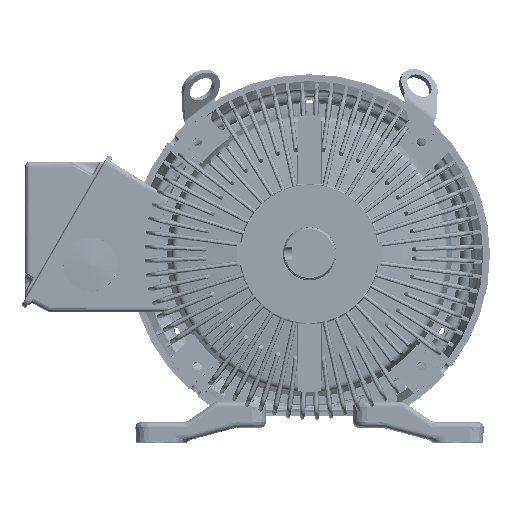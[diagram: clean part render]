
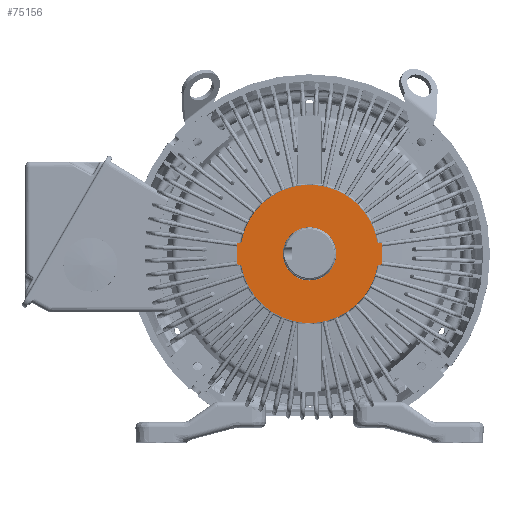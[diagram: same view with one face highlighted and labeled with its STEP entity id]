
A CAD part, top view. The second image highlights one B-rep face of the part: STEP entity #75156.
In plain terms, the highlighted planar face has unit normal (0, 0, 1) as drawn and (0, 0, -1) by its records, which use the part's own axes.
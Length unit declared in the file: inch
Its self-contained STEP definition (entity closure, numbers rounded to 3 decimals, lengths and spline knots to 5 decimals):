
#42311=CARTESIAN_POINT('',(0.,0.,-1.656));
#42312=DIRECTION('',(0.,0.,1.));
#42313=DIRECTION('',(0.,1.,0.));
#42314=AXIS2_PLACEMENT_3D('',#42311,#42312,#42313);
#42316=CARTESIAN_POINT('',(0.,0.,-1.656));
#42317=DIRECTION('',(0.,0.,1.));
#42318=DIRECTION('',(0.,-1.,0.));
#42319=AXIS2_PLACEMENT_3D('',#42316,#42317,#42318);
#42503=CARTESIAN_POINT('',(0.,0.,-1.656));
#42504=DIRECTION('',(0.,0.,-1.));
#42505=DIRECTION('',(-0.987,0.159,0.));
#42506=AXIS2_PLACEMENT_3D('',#42503,#42504,#42505);
#42872=CARTESIAN_POINT('',(0.,0.,-1.656));
#42873=DIRECTION('',(0.,0.,-1.));
#42874=DIRECTION('',(0.987,-0.159,0.));
#42875=AXIS2_PLACEMENT_3D('',#42872,#42873,#42874);
#60818=CARTESIAN_POINT('',(-2.53013,-0.406,
-1.656));
#60820=DIRECTION('',(1.,0.,0.));
#60821=VECTOR('',#60820,0.09487);
#60822=CARTESIAN_POINT('',(-2.625,-0.406,-1.656));
#60823=LINE('',#60822,#60821);
#60872=DIRECTION('',(0.,-1.,0.));
#60873=VECTOR('',#60872,0.687);
#60874=CARTESIAN_POINT('',(-2.688,0.344,-1.656));
#60875=LINE('',#60874,#60873);
#60906=DIRECTION('',(-1.,0.,0.));
#60907=VECTOR('',#60906,0.09503);
#60908=CARTESIAN_POINT('',(-2.52997,0.407,
-1.656));
#60909=LINE('',#60908,#60907);
#60910=CARTESIAN_POINT('',(-2.52997,0.407,
-1.656));
#60934=CARTESIAN_POINT('',(-2.625,0.344,-1.656));
#60935=DIRECTION('',(0.,0.,1.));
#60936=DIRECTION('',(0.,1.,0.));
#60937=AXIS2_PLACEMENT_3D('',#60934,#60935,#60936);
#61290=CARTESIAN_POINT('',(-2.625,-0.343,-1.656));
#61291=DIRECTION('',(0.,0.,1.));
#61292=DIRECTION('',(-1.,0.,0.));
#61293=AXIS2_PLACEMENT_3D('',#61290,#61291,#61292);
#66038=CARTESIAN_POINT('',(2.53013,0.406,
-1.656));
#66040=DIRECTION('',(-1.,0.,0.));
#66041=VECTOR('',#66040,0.09487);
#66042=CARTESIAN_POINT('',(2.625,0.406,-1.656));
#66043=LINE('',#66042,#66041);
#66075=CARTESIAN_POINT('',(2.625,0.343,-1.656));
#66076=DIRECTION('',(0.,0.,1.));
#66077=DIRECTION('',(1.,0.,0.));
#66078=AXIS2_PLACEMENT_3D('',#66075,#66076,#66077);
#66113=DIRECTION('',(0.,-1.,0.));
#66114=VECTOR('',#66113,0.687);
#66115=CARTESIAN_POINT('',(2.688,0.343,-1.656));
#66116=LINE('',#66115,#66114);
#66148=CARTESIAN_POINT('',(2.625,-0.344,-1.656));
#66149=DIRECTION('',(0.,0.,1.));
#66150=DIRECTION('',(0.,-1.,0.));
#66151=AXIS2_PLACEMENT_3D('',#66148,#66149,#66150);
#66167=DIRECTION('',(1.,0.,0.));
#66168=VECTOR('',#66167,0.09503);
#66169=CARTESIAN_POINT('',(2.52997,-0.407,
-1.656));
#66170=LINE('',#66169,#66168);
#66171=CARTESIAN_POINT('',(2.52997,-0.407,
-1.656));
#72121=CARTESIAN_POINT('',(2.688,0.343,-1.656));
#72122=CARTESIAN_POINT('',(2.688,-0.344,-1.656));
#72123=VERTEX_POINT('',#72121);
#72124=VERTEX_POINT('',#72122);
#72125=CARTESIAN_POINT('',(2.625,-0.407,-1.656));
#72126=VERTEX_POINT('',#72125);
#72127=CARTESIAN_POINT('',(2.625,0.406,-1.656));
#72128=VERTEX_POINT('',#72127);
#72129=VERTEX_POINT('',#66171);
#72132=VERTEX_POINT('',#66038);
#72133=CARTESIAN_POINT('',(-2.625,0.407,-1.656));
#72134=CARTESIAN_POINT('',(-2.688,0.344,-1.656));
#72135=VERTEX_POINT('',#72133);
#72136=VERTEX_POINT('',#72134);
#72137=CARTESIAN_POINT('',(-2.688,-0.343,-1.656));
#72138=VERTEX_POINT('',#72137);
#72139=CARTESIAN_POINT('',(-2.625,-0.406,-1.656));
#72140=VERTEX_POINT('',#72139);
#72141=VERTEX_POINT('',#60910);
#72144=VERTEX_POINT('',#60818);
#75051=CARTESIAN_POINT('',(0.,0.99,-1.656));
#75052=CARTESIAN_POINT('',(0.,-0.99,-1.656));
#75053=VERTEX_POINT('',#75051);
#75054=VERTEX_POINT('',#75052);
#75119=CARTESIAN_POINT('',(0.,0.,-1.656));
#75120=DIRECTION('',(0.,0.,-1.));
#75121=DIRECTION('',(0.,-1.,0.));
#75122=AXIS2_PLACEMENT_3D('',#75119,#75120,#75121);
#75123=PLANE('',#75122);
#75125=ORIENTED_EDGE('',*,*,#75124,.F.);
#75127=ORIENTED_EDGE('',*,*,#75126,.T.);
#75129=ORIENTED_EDGE('',*,*,#75128,.T.);
#75131=ORIENTED_EDGE('',*,*,#75130,.T.);
#75133=ORIENTED_EDGE('',*,*,#75132,.T.);
#75135=ORIENTED_EDGE('',*,*,#75134,.T.);
#75137=ORIENTED_EDGE('',*,*,#75136,.F.);
#75139=ORIENTED_EDGE('',*,*,#75138,.T.);
#75141=ORIENTED_EDGE('',*,*,#75140,.T.);
#75143=ORIENTED_EDGE('',*,*,#75142,.F.);
#75145=ORIENTED_EDGE('',*,*,#75144,.T.);
#75147=ORIENTED_EDGE('',*,*,#75146,.T.);
#75148=EDGE_LOOP('',(#75125,#75127,#75129,#75131,#75133,#75135,#75137,#75139,
#75141,#75143,#75145,#75147));
#75149=FACE_OUTER_BOUND('',#75148,.F.);
#75151=ORIENTED_EDGE('',*,*,#75150,.F.);
#75153=ORIENTED_EDGE('',*,*,#75152,.F.);
#75154=EDGE_LOOP('',(#75151,#75153));
#75155=FACE_BOUND('',#75154,.F.);
#75156=ADVANCED_FACE('',(#75149,#75155),#75123,.T.);
#42315=CIRCLE('',#42314,0.99);
#42320=CIRCLE('',#42319,0.99);
#42507=CIRCLE('',#42506,2.5625);
#42876=CIRCLE('',#42875,2.5625);
#60938=CIRCLE('',#60937,0.063);
#61294=CIRCLE('',#61293,0.063);
#66079=CIRCLE('',#66078,0.063);
#66152=CIRCLE('',#66151,0.063);
#75124=EDGE_CURVE('',#72141,#72132,#42507,.T.);
#75126=EDGE_CURVE('',#72141,#72135,#60909,.T.);
#75128=EDGE_CURVE('',#72135,#72136,#60938,.T.);
#75130=EDGE_CURVE('',#72136,#72138,#60875,.T.);
#75132=EDGE_CURVE('',#72138,#72140,#61294,.T.);
#75134=EDGE_CURVE('',#72140,#72144,#60823,.T.);
#75136=EDGE_CURVE('',#72129,#72144,#42876,.T.);
#75138=EDGE_CURVE('',#72129,#72126,#66170,.T.);
#75140=EDGE_CURVE('',#72126,#72124,#66152,.T.);
#75142=EDGE_CURVE('',#72123,#72124,#66116,.T.);
#75144=EDGE_CURVE('',#72123,#72128,#66079,.T.);
#75146=EDGE_CURVE('',#72128,#72132,#66043,.T.);
#75150=EDGE_CURVE('',#75053,#75054,#42315,.T.);
#75152=EDGE_CURVE('',#75054,#75053,#42320,.T.);
